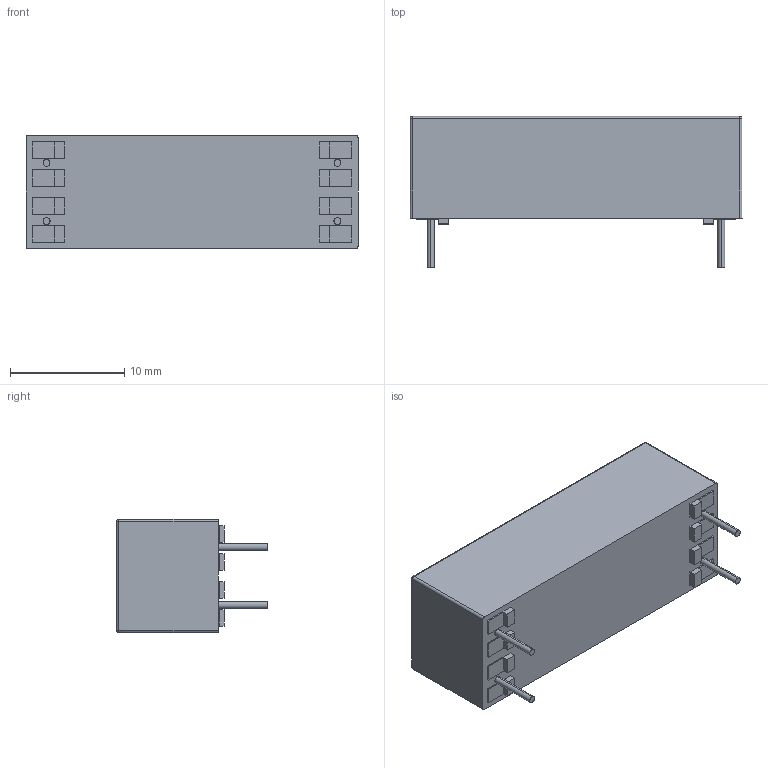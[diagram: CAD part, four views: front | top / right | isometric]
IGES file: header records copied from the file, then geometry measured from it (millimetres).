
Start section: SolidWorks IGES file using analytic representation for surfaces
Global section: file name: T:\Relays in Solidworks\Batch 4\80-1-A-HV.IGS; native system: SolidWorks 2009; preprocessor: SolidWorks 2009; author: alex.leming; date: 100629.161414; units: millimetre
Bounding box: 29 x 13.2 x 9.9 mm (x, y, z)
Surface area: 1310.2 mm2 (no closed solid volume)
Topology: 0 solids, 0 shells, 710 faces, 7075 edges, 7075 vertices
Faces by surface type: bspline 690, revolution 20
